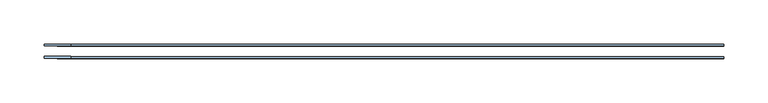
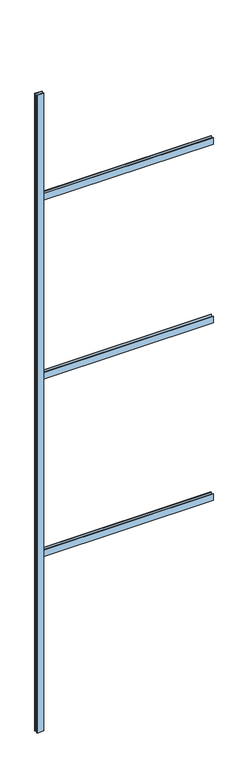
"""IFC4 building model written with IfcOpenShell, lengths in millimetres: window geometry, 32_IM_CF_verdeling_roedes : 32_IM_CF_verdeling_roedes_1x4."""

import ifcopenshell
import ifcopenshell.guid

model = None  # the IFC model being written
_history = None  # IfcOwnerHistory: only IFC2X3 demands one
_inside = {}  # id of a spatial element -> (the spatial element, [elements in it])
_under = {}  # id of a project, library or spatial element -> (it, [spatial elements below it])
_declared = {}  # id of a project -> (the project, [libraries it declares])
_typed = {}  # id of a type object -> (the type object, [elements of that type])
_made_of = {}  # id of a material, layer set ... -> (it, [elements and type objects made of it])


def new_model(schema):
    """Start an empty IFC model of exactly this schema.

    Asked for "IFC4X3", IfcOpenShell would pick the latest addendum, in which some entities
    have other attributes; the version numbers below select the first issue.
    IFC2X3 requires an IfcOwnerHistory on every rooted entity: one is made here for all.
    """
    global model, _history
    if schema == "IFC4X3":
        model = ifcopenshell.file(schema_version=(4, 3, 0, 0))
    else:
        model = ifcopenshell.file(schema=schema)
    _inside.clear()
    _under.clear()
    _declared.clear()
    _typed.clear()
    _made_of.clear()
    _history = None
    if model.schema == "IFC2X3":
        org = make("IfcOrganization", Name="unknown")
        user = make(
            "IfcPersonAndOrganization",
            ThePerson=make("IfcPerson", FamilyName="unknown"),
            TheOrganization=org,
        )
        app = make(
            "IfcApplication",
            ApplicationDeveloper=org,
            Version="unknown",
            ApplicationFullName="unknown",
            ApplicationIdentifier="unknown",
        )
        _history = make(
            "IfcOwnerHistory",
            OwningUser=user,
            OwningApplication=app,
            ChangeAction="ADDED",
            CreationDate=0,
        )
    return model


def make(cls, **values):
    """One entity of the class cls with the attributes given. An attribute that is None is left unset."""
    return model.create_entity(
        cls, **{name: value for name, value in values.items() if value is not None}
    )


def rooted(cls, **values):
    """An entity with a GlobalId (a new one), such as an element, a storey or a relation."""
    return make(cls, GlobalId=ifcopenshell.guid.new(), OwnerHistory=_history, **values)


def si_unit(unit_type, name, prefix=None):
    """IfcSIUnit, for example si_unit("LENGTHUNIT", "METRE", prefix="MILLI")."""
    return make("IfcSIUnit", UnitType=unit_type, Prefix=prefix, Name=name)


def assignment(units):
    """IfcUnitAssignment: the units of a project."""
    return None if units is None else make("IfcUnitAssignment", Units=units)


def point(xyz):
    """IfcCartesianPoint."""
    return None if xyz is None else make("IfcCartesianPoint", Coordinates=xyz)


def direction(xyz):
    """IfcDirection."""
    return None if xyz is None else make("IfcDirection", DirectionRatios=xyz)


def frame(location, z_axis=None, x_axis=None):
    """IfcAxis2Placement3D, a coordinate frame: its origin and axes. An axis left out is left unset."""
    return make(
        "IfcAxis2Placement3D",
        Location=point(location),
        Axis=direction(z_axis),
        RefDirection=direction(x_axis),
    )


def origin():
    """The frame at (0, 0, 0) with its axes left unset."""
    return frame((0.0, 0.0, 0.0))


def origin_with_axes():
    """The frame at (0, 0, 0) with the z axis (0, 0, 1) and the x axis (1, 0, 0) written out."""
    return frame((0.0, 0.0, 0.0), z_axis=(0.0, 0.0, 1.0), x_axis=(1.0, 0.0, 0.0))


def place(relative_to, where):
    """IfcLocalPlacement: puts the frame where relative to a parent placement (None: the world)."""
    return make(
        "IfcLocalPlacement", PlacementRelTo=relative_to, RelativePlacement=where
    )


def context(
    kind, dimensions, precision=None, world=None, true_north=None, identifier=None
):
    """IfcGeometricRepresentationContext, for example the 3D "Model" context."""
    return make(
        "IfcGeometricRepresentationContext",
        ContextIdentifier=identifier,
        ContextType=kind,
        CoordinateSpaceDimension=dimensions,
        Precision=precision,
        WorldCoordinateSystem=world,
        TrueNorth=true_north,
    )


def project(units=None, contexts=None):
    """IfcProject with its units and contexts."""
    return rooted(
        "IfcProject",
        Name="project",
        RepresentationContexts=contexts,
        UnitsInContext=assignment(units),
    )


def spatial(cls, under=None, at=None, **own):
    """A site, building, storey or space (cls), placed at a placement, below another one or the project."""
    s = rooted(cls, ObjectPlacement=at, **own)
    if under is not None:
        _under.setdefault(under.id(), (under, []))[1].append(s)
    return s


def polyline(points):
    """IfcPolyline through the points."""
    return make("IfcPolyline", Points=[point(p) for p in points])


def outline(outer, holes=None, kind="AREA"):
    """IfcArbitraryClosedProfileDef: a profile drawn as a closed curve; with holes, ...WithVoids."""
    if holes is None:
        return make("IfcArbitraryClosedProfileDef", ProfileType=kind, OuterCurve=outer)
    return make(
        "IfcArbitraryProfileDefWithVoids",
        ProfileType=kind,
        OuterCurve=outer,
        InnerCurves=holes,
    )


def extrude(swept, where, along, depth):
    """IfcExtrudedAreaSolid: the profile swept, set in the frame where, extruded along a direction by depth."""
    return make(
        "IfcExtrudedAreaSolid",
        SweptArea=swept,
        Position=where,
        ExtrudedDirection=direction(along),
        Depth=depth,
    )


def shape(context_of_items, identifier, shape_type, items):
    """IfcShapeRepresentation: the items that make up one representation, for example the "Body"."""
    return make(
        "IfcShapeRepresentation",
        ContextOfItems=context_of_items,
        RepresentationIdentifier=identifier,
        RepresentationType=shape_type,
        Items=items,
    )


def source(mapping_origin, context_of_items, identifier, shape_type, items):
    """IfcRepresentationMap: a shape defined once, which mapped items show again and again."""
    return make(
        "IfcRepresentationMap",
        MappingOrigin=mapping_origin,
        MappedRepresentation=shape(context_of_items, identifier, shape_type, items),
    )


def transform(
    local_origin,
    x_axis=None,
    y_axis=None,
    z_axis=None,
    scale=None,
    scale2=None,
    scale3=None,
    uniform=True,
):
    """IfcCartesianTransformationOperator3D, or its non-uniform kind. x_axis, y_axis, z_axis: its Axis1, 2, 3."""
    if uniform:
        return make(
            "IfcCartesianTransformationOperator3D",
            Axis1=direction(x_axis),
            Axis2=direction(y_axis),
            LocalOrigin=point(local_origin),
            Scale=scale,
            Axis3=direction(z_axis),
        )
    return make(
        "IfcCartesianTransformationOperator3DnonUniform",
        Axis1=direction(x_axis),
        Axis2=direction(y_axis),
        LocalOrigin=point(local_origin),
        Scale=scale,
        Axis3=direction(z_axis),
        Scale2=scale2,
        Scale3=scale3,
    )


def mapped(mapping_source, mapping_target):
    """IfcMappedItem: shows the shape of a source again, moved by a transform."""
    return make(
        "IfcMappedItem", MappingSource=mapping_source, MappingTarget=mapping_target
    )


def made_of(thing, what):
    """Note that an element or type object is made of a material, layer set ...; save() writes the relation."""
    if what is not None:
        _made_of.setdefault(what.id(), (what, []))[1].append(thing)
    return thing


def element(
    cls,
    number,
    at=None,
    inside=None,
    cuts=None,
    type_object=None,
    material=None,
    context=None,
    identifier="Body",
    shape_type=None,
    held_by="IfcProductDefinitionShape",
    body=None,
    shapes=None,
    **own,
):
    """One element of the class cls, such as IfcWall. Its Tag is "e" and its number.

    at: its placement. inside: the storey or other place that contains it. cuts: it is an
    opening in that element (IfcRelVoidsElement). A single representation is given by context,
    identifier, shape_type and body (its items); several are given by shapes. held_by: the class
    of the entity that holds the representations. save() writes the other relations.
    """
    e = rooted(cls, Tag="e%d" % number, ObjectPlacement=at, **own)
    if body is not None:
        shapes = [shape(context, identifier, shape_type, body)]
    if shapes is not None:
        e.Representation = make(held_by, Representations=shapes)
    if inside is not None:
        _inside.setdefault(inside.id(), (inside, []))[1].append(e)
    if cuts is not None:
        rooted(
            "IfcRelVoidsElement", RelatingBuildingElement=cuts, RelatedOpeningElement=e
        )
    if type_object is not None:
        _typed.setdefault(type_object.id(), (type_object, []))[1].append(e)
    return made_of(e, material)


def aggregate(whole, parts):
    """IfcRelAggregates: a whole, such as a stair, and the parts it consists of."""
    return rooted("IfcRelAggregates", RelatingObject=whole, RelatedObjects=parts)


def save(model, path):
    """Write the relations noted so far, then the file.

    IfcRelAggregates (storeys below a building ...), IfcRelContainedInSpatialStructure (elements
    in a storey), IfcRelDefinesByType, IfcRelAssociatesMaterial and IfcRelDeclares: one each for
    every whole, place, type object, material and project.
    """
    for whole, parts in _under.values():
        aggregate(whole, parts)
    for where, things in _inside.values():
        rooted(
            "IfcRelContainedInSpatialStructure",
            RelatedElements=things,
            RelatingStructure=where,
        )
    for kind, things in _typed.values():
        rooted("IfcRelDefinesByType", RelatedObjects=things, RelatingType=kind)
    for what, things in _made_of.values():
        rooted("IfcRelAssociatesMaterial", RelatedObjects=things, RelatingMaterial=what)
    for by, libraries in _declared.values():
        rooted("IfcRelDeclares", RelatingContext=by, RelatedDefinitions=libraries)
    model.write(path)


def window_1ea9db38(model_context):
    return source(origin(), model_context, "Body", "SweptSolid", [
        extrude(outline(polyline([(-362.9999998, 6.0), (-392.9999998, 6.0), (-392.9999998, 8.0), (-362.9999998, 8.0), (-362.9999998, 6.0)])), origin_with_axes(), (0.0, 0.0, 1.0), 2945.0),
        extrude(outline(polyline([(-392.9999998, -8.0), (-392.9999998, -6.0), (-362.9999998, -6.0), (-362.9999998, -8.0), (-392.9999998, -8.0)])), origin_with_axes(), (0.0, 0.0, 1.0), 2945.0),
        extrude(outline(polyline([(377.9999998, 8.0), (377.9999998, 6.0), (-377.9999998, 6.0), (-377.9999998, 8.0), (377.9999998, 8.0)])), frame((0.0, 0.0, 805.0), z_axis=(0.0, 0.0, 1.0), x_axis=(1.0, 0.0, 0.0)), (0.0, 0.0, 1.0), 30.0),
        extrude(outline(polyline([(377.9999998, -6.0), (377.9999998, -8.0), (-377.9999998, -8.0), (-377.9999998, -6.0), (377.9999998, -6.0)])), frame((0.0, 0.0, 805.0), z_axis=(0.0, 0.0, 1.0), x_axis=(1.0, 0.0, 0.0)), (0.0, 0.0, 1.0), 30.0),
        extrude(outline(polyline([(377.9999998, 8.0), (377.9999998, 6.0), (-377.9999998, 6.0), (-377.9999998, 8.0), (377.9999998, 8.0)])), frame((0.0, 0.0, 2450.0), z_axis=(0.0, 0.0, 1.0), x_axis=(1.0, 0.0, 0.0)), (0.0, 0.0, 1.0), 30.0),
        extrude(outline(polyline([(377.9999998, -6.0), (377.9999998, -8.0), (-377.9999998, -8.0), (-377.9999998, -6.0), (377.9999998, -6.0)])), frame((0.0, 0.0, 2450.0), z_axis=(0.0, 0.0, 1.0), x_axis=(1.0, 0.0, 0.0)), (0.0, 0.0, 1.0), 30.0),
        extrude(outline(polyline([(377.9999998, 8.0), (377.9999998, 6.0), (-377.9999998, 6.0), (-377.9999998, 8.0), (377.9999998, 8.0)])), frame((0.0, 0.0, 1625.0), z_axis=(0.0, 0.0, 1.0), x_axis=(1.0, 0.0, 0.0)), (0.0, 0.0, 1.0), 30.0),
        extrude(outline(polyline([(377.9999998, -6.0), (377.9999998, -8.0), (-377.9999998, -8.0), (-377.9999998, -6.0), (377.9999998, -6.0)])), frame((0.0, 0.0, 1625.0), z_axis=(0.0, 0.0, 1.0), x_axis=(1.0, 0.0, 0.0)), (0.0, 0.0, 1.0), 30.0),
    ])


if __name__ == "__main__":
    model = new_model("IFC4")
    model_context = context("Model", 3, world=origin())
    ifc_project = project(units=[si_unit("LENGTHUNIT", "METRE", prefix="MILLI")], contexts=[model_context])
    site = spatial("IfcSite", under=ifc_project)
    building = spatial("IfcBuilding", under=site)
    placement = place(None, origin())
    window_shape = window_1ea9db38(model_context)
    element("IfcWindow", 1, ObjectType="32_IM_CF_verdeling_roedes : 32_IM_CF_verdeling_roedes_1x4", at=placement, inside=building, context=model_context, shape_type="MappedRepresentation", body=[
        mapped(window_shape, transform((0.0, 0.0, 0.0), x_axis=(1.0, 0.0, 0.0), y_axis=(0.0, 1.0, 0.0), z_axis=(0.0, 0.0, 1.0))),
    ])
    save(model, "model.ifc")
